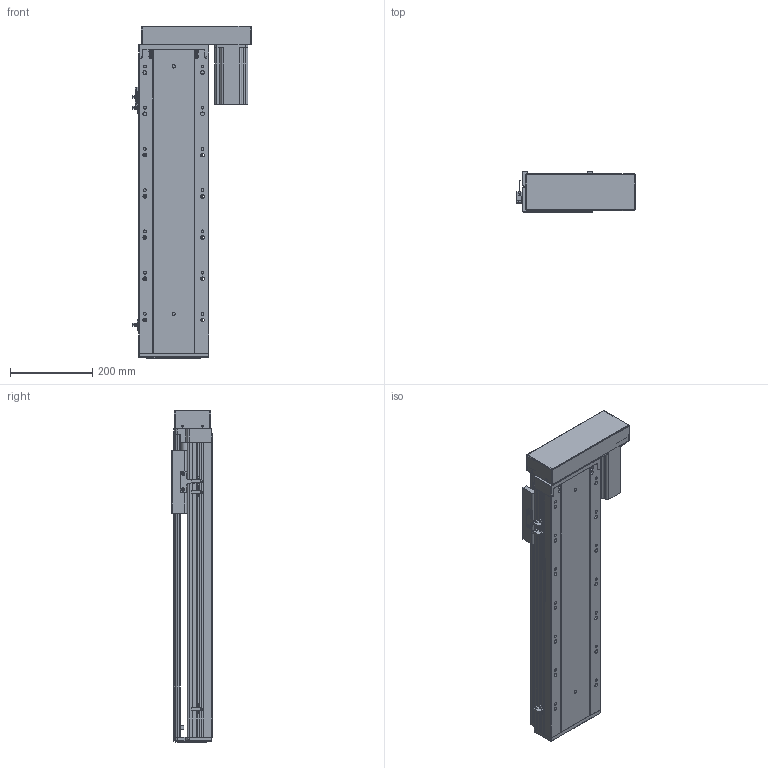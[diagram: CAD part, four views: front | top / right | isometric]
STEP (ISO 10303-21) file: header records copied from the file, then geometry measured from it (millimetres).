
FILE_DESCRIPTION (( 'STEP AP203' ), '1' );
FILE_NAME ('RY170-L2510-300-RK.SLDASM_500.step', '2021-03-12T09:19:13', ( '盈信电脑' ), ( '东莞市道滘镇水果街19号' ), 'SwSTEP 2.0', 'SolidWorks 2012', '' );
FILE_SCHEMA (( 'CONFIG_CONTROL_DESIGN' ));
Products named in the file (14): RY170-L2510-300-RK.SLDASM_500; RY170外置感应片(200共用）; RY170酘衵殏萇儂欶750W; 覜茼ん672; RY170-酘衵殏750W萇儂傷; 怢湛750W萇儂ㄗ80遺ㄘ; RY170-左右折电机安装板750W; 滅袉蝶18-10; RY170转折电机端支撑座(7004); RY170-300倰第裔啣-RK_500; 滅袉蝶18-20; RY170綴裔啣; 改造-RY170铝滑块25丝杆螺母; RY170-300倰第菁釱-RK_500
Assembly tree (15 placements, depth 3):
  RY170-L2510-300-RK.SLDASM_500
    RY170-300倰第菁釱-RK_500
    改造-RY170铝滑块25丝杆螺母
    RY170-300倰第裔啣-RK_500
    RY170綴裔啣
    滅袉蝶18-20
    滅袉蝶18-10
    RY170转折电机端支撑座(7004)
    RY170-酘衵殏750W萇儂傷
      RY170-左右折电机安装板750W
      RY170酘衵殏萇儂欶750W
      怢湛750W萇儂ㄗ80遺ㄘ
    覜茼ん672  x3
    RY170外置感应片(200共用）
Bounding box: 286.2 x 97 x 805 mm (x, y, z)
Volume: 5118784.5 mm3; surface area: 1515932.6 mm2
Topology: 14 solids, 14 shells, 2119 faces, 6078 edges, 3922 vertices
Faces by surface type: plane 1086, cylinder 864, cone 150, bspline 19
Entity records: 68595 total; most frequent: CARTESIAN_POINT 16413, ORIENTED_EDGE 10948, DIRECTION 10102, EDGE_CURVE 5474, VERTEX_POINT 3602, VECTOR 3404, LINE 3404, AXIS2_PLACEMENT_3D 3349
